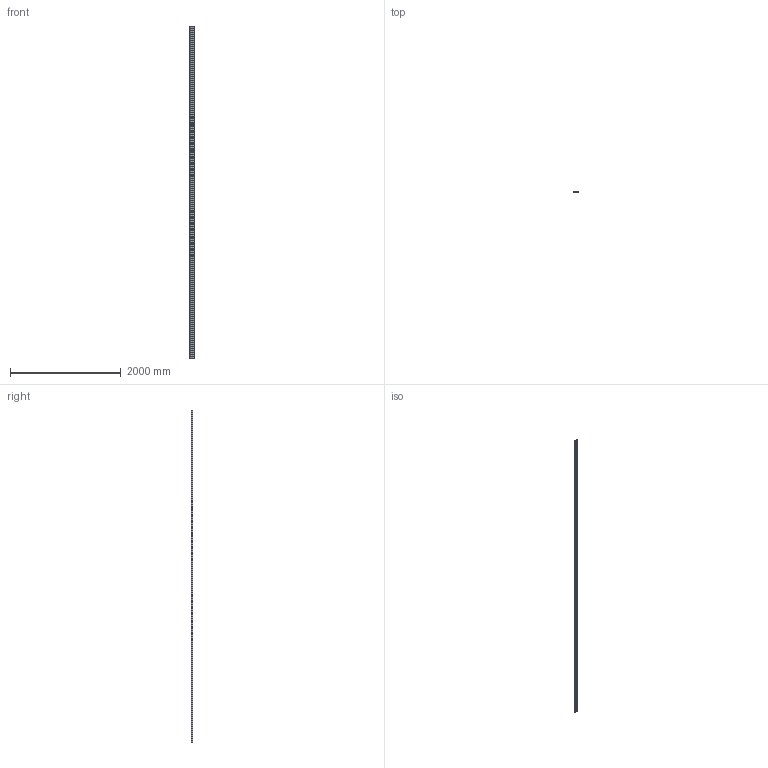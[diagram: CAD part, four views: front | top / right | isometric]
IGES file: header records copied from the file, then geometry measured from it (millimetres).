
Start section: SolidWorks IGES file using analytic representation for surfaces
Global section: file name: C:\Users\Ahmed\Desktop\Aluminium profiles\20x80 Slot 6 100mm.IGS; native system: SolidWorks 2016; preprocessor: SolidWorks 2016; author: Ahmed; date: 170805.213947; units: millimetre
Bounding box: 80.1 x 20 x 6000 mm (x, y, z)
Surface area: 3748181 mm2 (no closed solid volume)
Topology: 0 solids, 0 shells, 460 faces, 4117 edges, 4117 vertices
Faces by surface type: bspline 278, revolution 182
